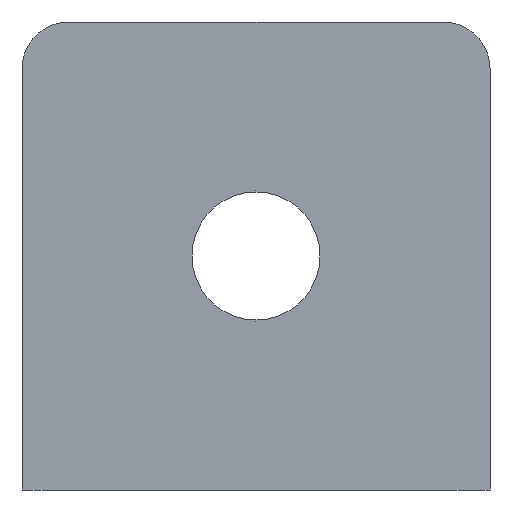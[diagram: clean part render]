
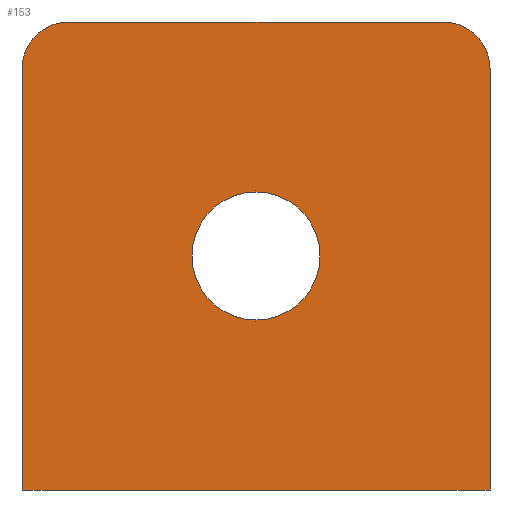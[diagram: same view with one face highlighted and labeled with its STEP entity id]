
A CAD part, left-side view. The second image highlights one B-rep face of the part: STEP entity #153.
In plain terms, the highlighted planar face has unit normal (-1, 0, 0).
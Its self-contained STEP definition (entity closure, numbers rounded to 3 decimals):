
#7 = DIRECTION ( 'NONE',  ( 0., 0., -1. ) ) ;
#17 = CARTESIAN_POINT ( 'NONE',  ( 0., 18., 20. ) ) ;
#29 = AXIS2_PLACEMENT_3D ( 'NONE', #844, #60, #241 ) ;
#33 = EDGE_CURVE ( 'NONE', #435, #235, #67, .T. ) ;
#39 = DIRECTION ( 'NONE',  ( 0., 0., -1. ) ) ;
#44 = ORIENTED_EDGE ( 'NONE', *, *, #704, .T. ) ;
#56 = DIRECTION ( 'NONE',  ( -1., 0., 0. ) ) ;
#60 = DIRECTION ( 'NONE',  ( -1., 0., 0. ) ) ;
#67 = LINE ( 'NONE', #449, #478 ) ;
#77 = ORIENTED_EDGE ( 'NONE', *, *, #662, .F. ) ;
#98 = ORIENTED_EDGE ( 'NONE', *, *, #397, .T. ) ;
#106 = ORIENTED_EDGE ( 'NONE', *, *, #525, .T. ) ;
#116 = AXIS2_PLACEMENT_3D ( 'NONE', #361, #739, #611 ) ;
#153 = ADVANCED_FACE ( 'NONE', ( #837, #249 ), #508, .T. ) ;
#158 = VERTEX_POINT ( 'NONE', #763 ) ;
#179 = VERTEX_POINT ( 'NONE', #17 ) ;
#195 = DIRECTION ( 'NONE',  ( 0., -1., 0. ) ) ;
#200 = LINE ( 'NONE', #728, #665 ) ;
#201 = VERTEX_POINT ( 'NONE', #733 ) ;
#235 = VERTEX_POINT ( 'NONE', #335 ) ;
#241 = DIRECTION ( 'NONE',  ( 0., 0., 1. ) ) ;
#249 = FACE_OUTER_BOUND ( 'NONE', #682, .T. ) ;
#265 = EDGE_CURVE ( 'NONE', #567, #564, #200, .T. ) ;
#272 = EDGE_CURVE ( 'NONE', #235, #564, #798, .T. ) ;
#301 = CARTESIAN_POINT ( 'NONE',  ( 0., 2., 18. ) ) ;
#309 = ORIENTED_EDGE ( 'NONE', *, *, #368, .T. ) ;
#310 = DIRECTION ( 'NONE',  ( 0., 0., -1. ) ) ;
#335 = CARTESIAN_POINT ( 'NONE',  ( 0., 0., 0. ) ) ;
#361 = CARTESIAN_POINT ( 'NONE',  ( 0., 18., 18. ) ) ;
#368 = EDGE_CURVE ( 'NONE', #179, #567, #660, .T. ) ;
#396 = VERTEX_POINT ( 'NONE', #751 ) ;
#397 = EDGE_CURVE ( 'NONE', #158, #201, #796, .T. ) ;
#414 = CIRCLE ( 'NONE', #503, 2. ) ;
#429 = EDGE_LOOP ( 'NONE', ( #44, #98 ) ) ;
#431 = ORIENTED_EDGE ( 'NONE', *, *, #272, .F. ) ;
#435 = VERTEX_POINT ( 'NONE', #675 ) ;
#449 = CARTESIAN_POINT ( 'NONE',  ( 0., 0., 10. ) ) ;
#474 = DIRECTION ( 'NONE',  ( 0., 0., -1. ) ) ;
#477 = DIRECTION ( 'NONE',  ( 0., 1., 0. ) ) ;
#478 = VECTOR ( 'NONE', #310, 1000. ) ;
#488 = AXIS2_PLACEMENT_3D ( 'NONE', #820, #619, #39 ) ;
#503 = AXIS2_PLACEMENT_3D ( 'NONE', #301, #56, #510 ) ;
#508 = PLANE ( 'NONE',  #29 ) ;
#510 = DIRECTION ( 'NONE',  ( 0., 0., 1. ) ) ;
#525 = EDGE_CURVE ( 'NONE', #435, #396, #414, .T. ) ;
#527 = CARTESIAN_POINT ( 'NONE',  ( 0., 10., 0. ) ) ;
#558 = VECTOR ( 'NONE', #477, 1000. ) ;
#564 = VERTEX_POINT ( 'NONE', #693 ) ;
#567 = VERTEX_POINT ( 'NONE', #836 ) ;
#584 = CARTESIAN_POINT ( 'NONE',  ( 0., 10., 20. ) ) ;
#588 = AXIS2_PLACEMENT_3D ( 'NONE', #649, #726, #474 ) ;
#611 = DIRECTION ( 'NONE',  ( 0., 1., 0. ) ) ;
#619 = DIRECTION ( 'NONE',  ( 1., 0., 0. ) ) ;
#646 = LINE ( 'NONE', #584, #685 ) ;
#649 = CARTESIAN_POINT ( 'NONE',  ( 0., 10., 10. ) ) ;
#660 = CIRCLE ( 'NONE', #116, 2. ) ;
#662 = EDGE_CURVE ( 'NONE', #179, #396, #646, .T. ) ;
#665 = VECTOR ( 'NONE', #7, 1000. ) ;
#675 = CARTESIAN_POINT ( 'NONE',  ( 0., 0., 18. ) ) ;
#682 = EDGE_LOOP ( 'NONE', ( #77, #309, #744, #431, #760, #106 ) ) ;
#685 = VECTOR ( 'NONE', #195, 1000. ) ;
#693 = CARTESIAN_POINT ( 'NONE',  ( 0., 20., 0. ) ) ;
#704 = EDGE_CURVE ( 'NONE', #201, #158, #727, .T. ) ;
#726 = DIRECTION ( 'NONE',  ( 1., 0., 0. ) ) ;
#727 = CIRCLE ( 'NONE', #588, 2.735 ) ;
#728 = CARTESIAN_POINT ( 'NONE',  ( 0., 20., 10. ) ) ;
#733 = CARTESIAN_POINT ( 'NONE',  ( 0., 10., 7.265 ) ) ;
#739 = DIRECTION ( 'NONE',  ( -1., 0., 0. ) ) ;
#744 = ORIENTED_EDGE ( 'NONE', *, *, #265, .T. ) ;
#751 = CARTESIAN_POINT ( 'NONE',  ( 0., 2., 20. ) ) ;
#760 = ORIENTED_EDGE ( 'NONE', *, *, #33, .F. ) ;
#763 = CARTESIAN_POINT ( 'NONE',  ( 0., 10., 12.735 ) ) ;
#796 = CIRCLE ( 'NONE', #488, 2.735 ) ;
#798 = LINE ( 'NONE', #527, #558 ) ;
#820 = CARTESIAN_POINT ( 'NONE',  ( 0., 10., 10. ) ) ;
#836 = CARTESIAN_POINT ( 'NONE',  ( 0., 20., 18. ) ) ;
#837 = FACE_BOUND ( 'NONE', #429, .T. ) ;
#844 = CARTESIAN_POINT ( 'NONE',  ( 0., 17.7, 10. ) ) ;
